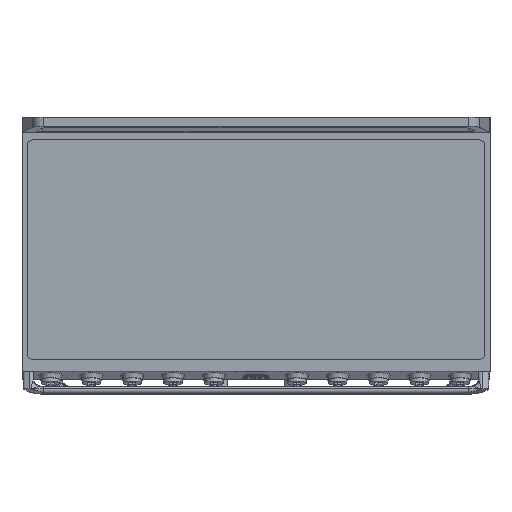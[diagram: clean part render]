
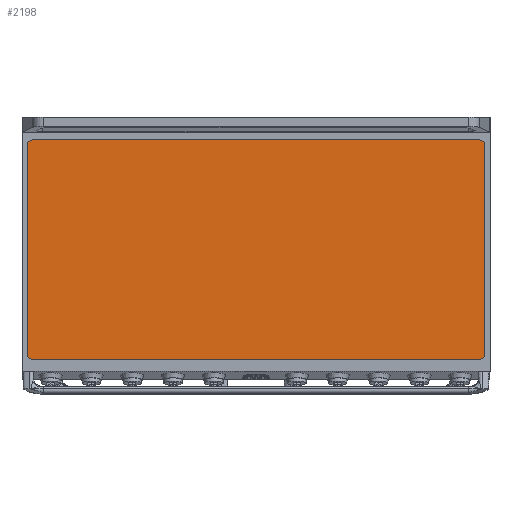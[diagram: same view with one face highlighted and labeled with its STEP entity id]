
A CAD part, top view. The second image highlights one B-rep face of the part: STEP entity #2198.
In plain terms, the highlighted planar face has unit normal (0, 0, 1).
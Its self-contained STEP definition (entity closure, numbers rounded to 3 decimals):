
#1703=CIRCLE('',#18304,14.);
#1705=CIRCLE('',#18308,14.);
#1707=CIRCLE('',#18312,14.);
#1709=CIRCLE('',#18316,14.);
#2198=ADVANCED_FACE('',(#3755),#3216,.T.);
#3216=PLANE('',#18318);
#3755=FACE_OUTER_BOUND('',#4707,.T.);
#4707=EDGE_LOOP('',(#8939,#8940,#8941,#8942,#8943,#8944,#8945,#8946));
#5909=LINE('',#24707,#7179);
#5914=LINE('',#24721,#7184);
#5918=LINE('',#24733,#7188);
#5922=LINE('',#24745,#7192);
#7179=VECTOR('',#19938,1.);
#7184=VECTOR('',#19951,1.);
#7188=VECTOR('',#19963,1.);
#7192=VECTOR('',#19975,1.);
#8939=ORIENTED_EDGE('',*,*,#15231,.T.);
#8940=ORIENTED_EDGE('',*,*,#15235,.T.);
#8941=ORIENTED_EDGE('',*,*,#15238,.T.);
#8942=ORIENTED_EDGE('',*,*,#15241,.T.);
#8943=ORIENTED_EDGE('',*,*,#15244,.T.);
#8944=ORIENTED_EDGE('',*,*,#15247,.T.);
#8945=ORIENTED_EDGE('',*,*,#15250,.T.);
#8946=ORIENTED_EDGE('',*,*,#15252,.T.);
#13533=VERTEX_POINT('',#24706);
#13534=VERTEX_POINT('',#24708);
#13536=VERTEX_POINT('',#24714);
#13538=VERTEX_POINT('',#24720);
#13540=VERTEX_POINT('',#24726);
#13542=VERTEX_POINT('',#24732);
#13544=VERTEX_POINT('',#24738);
#13546=VERTEX_POINT('',#24744);
#15231=EDGE_CURVE('',#13534,#13533,#5909,.T.);
#15235=EDGE_CURVE('',#13533,#13536,#1703,.T.);
#15238=EDGE_CURVE('',#13536,#13538,#5914,.T.);
#15241=EDGE_CURVE('',#13538,#13540,#1705,.T.);
#15244=EDGE_CURVE('',#13540,#13542,#5918,.T.);
#15247=EDGE_CURVE('',#13542,#13544,#1707,.T.);
#15250=EDGE_CURVE('',#13544,#13546,#5922,.T.);
#15252=EDGE_CURVE('',#13546,#13534,#1709,.T.);
#18304=AXIS2_PLACEMENT_3D('',#24715,#19945,#19946);
#18308=AXIS2_PLACEMENT_3D('',#24727,#19957,#19958);
#18312=AXIS2_PLACEMENT_3D('',#24739,#19969,#19970);
#18316=AXIS2_PLACEMENT_3D('',#24748,#19980,#19981);
#18318=AXIS2_PLACEMENT_3D('',#24750,#19984,#19985);
#19938=DIRECTION('',(0.,-1.,0.));
#19945=DIRECTION('',(0.,0.,1.));
#19946=DIRECTION('',(1.,0.,0.));
#19951=DIRECTION('',(1.,0.,0.));
#19957=DIRECTION('',(0.,0.,1.));
#19958=DIRECTION('',(1.,0.,0.));
#19963=DIRECTION('',(0.,1.,0.));
#19969=DIRECTION('',(0.,0.,1.));
#19970=DIRECTION('',(1.,0.,0.));
#19975=DIRECTION('',(-1.,0.,0.));
#19980=DIRECTION('',(0.,0.,1.));
#19981=DIRECTION('',(1.,0.,0.));
#19984=DIRECTION('',(0.,0.,1.));
#19985=DIRECTION('',(1.,0.,0.));
#24706=CARTESIAN_POINT('',(-254.5,280.035,515.055));
#24707=CARTESIAN_POINT('',(-254.5,769.035,515.055));
#24708=CARTESIAN_POINT('',(-254.5,769.035,515.055));
#24714=CARTESIAN_POINT('',(-240.5,266.035,515.055));
#24715=CARTESIAN_POINT('',(-240.5,280.035,515.055));
#24720=CARTESIAN_POINT('',(807.5,266.035,515.055));
#24721=CARTESIAN_POINT('',(-240.5,266.035,515.055));
#24726=CARTESIAN_POINT('',(821.5,280.035,515.055));
#24727=CARTESIAN_POINT('',(807.5,280.035,515.055));
#24732=CARTESIAN_POINT('',(821.5,769.035,515.055));
#24733=CARTESIAN_POINT('',(821.5,280.035,515.055));
#24738=CARTESIAN_POINT('',(807.5,783.035,515.055));
#24739=CARTESIAN_POINT('',(807.5,769.035,515.055));
#24744=CARTESIAN_POINT('',(-240.5,783.035,515.055));
#24745=CARTESIAN_POINT('',(807.5,783.035,515.055));
#24748=CARTESIAN_POINT('',(-240.5,769.035,515.055));
#24750=CARTESIAN_POINT('',(-240.5,280.035,515.055));
